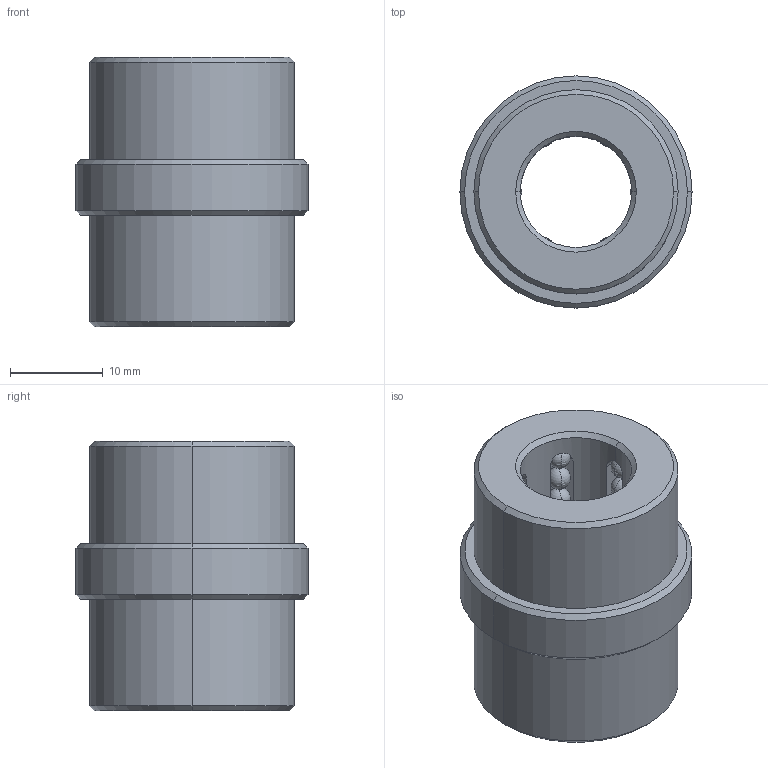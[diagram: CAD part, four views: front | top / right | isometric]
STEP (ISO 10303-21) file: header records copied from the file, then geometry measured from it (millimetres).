
FILE_DESCRIPTION((''),'2;1');
FILE_NAME('B844121217','2018-01-24T',('MANU'),(''),'PRO/ENGINEER BY PARAMETRIC TECHNOLOGY CORPORATION, 2012130','PRO/ENGINEER BY PARAMETRIC TECHNOLOGY CORPORATION, 2012130','');
FILE_SCHEMA(('CONFIG_CONTROL_DESIGN'));
Length unit declared in the file: millimetre
Products named in the file (1): B844121217
Bounding box: 25 x 25 x 29 mm (x, y, z)
Volume: 7944.1 mm3; surface area: 5627.2 mm2
Topology: 55 solids, 55 shells, 162 faces, 450 edges, 188 vertices
Faces by surface type: sphere 108, plane 22, cylinder 20, cone 12
Entity records: 3770 total; most frequent: CARTESIAN_POINT 758, DIRECTION 690, ORIENTED_EDGE 468, AXIS2_PLACEMENT_3D 310, EDGE_CURVE 234, VERTEX_POINT 188, EDGE_LOOP 170, FACE_OUTER_BOUND 162
